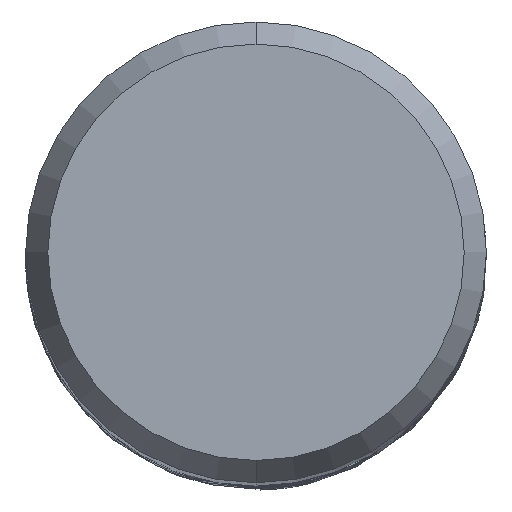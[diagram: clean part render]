
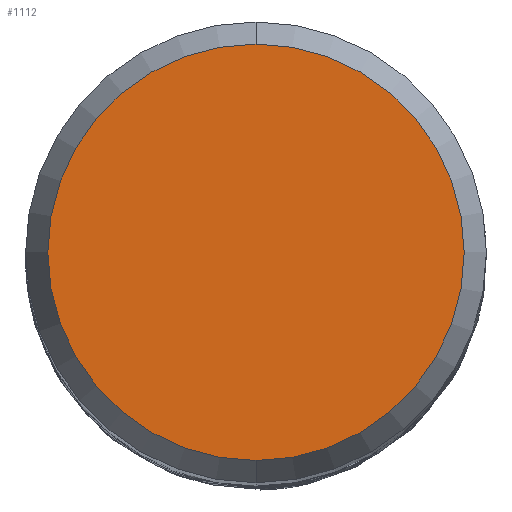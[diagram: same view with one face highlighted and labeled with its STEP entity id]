
A CAD part, top view. The second image highlights one B-rep face of the part: STEP entity #1112.
In plain terms, the highlighted planar face has unit normal (0, 0, 1).
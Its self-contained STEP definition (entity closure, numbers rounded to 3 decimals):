
#1112=ADVANCED_FACE('',(#2658),#2659,.T.);
#1204=EDGE_CURVE('',#1752,#1372,#2757,.T.);
#1372=VERTEX_POINT('',#2941);
#1746=EDGE_CURVE('',#1372,#1752,#3347,.T.);
#1752=VERTEX_POINT('',#3353);
#2658=FACE_OUTER_BOUND('',#9055,.T.);
#2659=PLANE('',#9056);
#2757=CIRCLE('',#10617,5.423);
#2941=CARTESIAN_POINT('',(0.0,5.423,0.0));
#3347=CIRCLE('',#16658,5.423);
#3353=CARTESIAN_POINT('',(0.,-5.423,0.0));
#9055=EDGE_LOOP('',(#24600,#24601));
#9056=AXIS2_PLACEMENT_3D('',#24602,#24603,#24604);
#10617=AXIS2_PLACEMENT_3D('',#24682,#24683,#24684);
#16658=AXIS2_PLACEMENT_3D('',#25288,#25289,#25290);
#24600=ORIENTED_EDGE('',*,*,#1746,.F.);
#24601=ORIENTED_EDGE('',*,*,#1204,.F.);
#24602=CARTESIAN_POINT('',(0.0,2.711,0.0));
#24603=DIRECTION('',(-0.0,0.0,1.0));
#24604=DIRECTION('',(0.0,-1.0,0.0));
#24682=CARTESIAN_POINT('',(0.0,0.0,0.0));
#24683=DIRECTION('',(0.0,0.0,-1.0));
#24684=DIRECTION('',(0.0,1.0,0.0));
#25288=CARTESIAN_POINT('',(0.0,0.0,0.0));
#25289=DIRECTION('',(0.0,0.0,-1.0));
#25290=DIRECTION('',(0.0,1.0,0.0));
